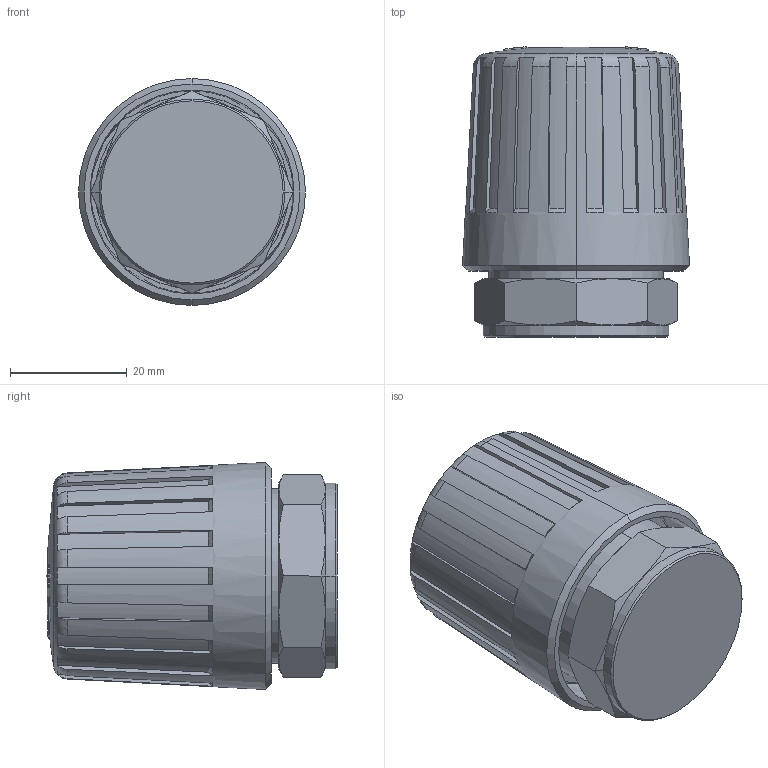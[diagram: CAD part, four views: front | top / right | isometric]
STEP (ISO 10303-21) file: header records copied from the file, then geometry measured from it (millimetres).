
FILE_DESCRIPTION (( 'STEP AP214' ), '1' );
FILE_NAME ('443006.STEP', '2021-07-07T12:25:12', ( '' ), ( '' ), 'SwSTEP 2.0', 'SolidWorks 2016', '' );
FILE_SCHEMA (( 'AUTOMOTIVE_DESIGN' ));
Length unit declared in the file: millimetre
Products named in the file (1): 443006
Bounding box: 38.9 x 49.76 x 38.9 mm (x, y, z)
Volume: 47170.3 mm3; surface area: 9930.9 mm2
Topology: 1 solids, 1 shells, 144 faces, 386 edges, 251 vertices
Faces by surface type: plane 73, cone 57, cylinder 6, bspline 3, sphere 3, torus 2
Entity records: 5275 total; most frequent: CARTESIAN_POINT 1852, ORIENTED_EDGE 772, DIRECTION 651, EDGE_CURVE 386, AXIS2_PLACEMENT_3D 299, VERTEX_POINT 251, B_SPLINE_CURVE_WITH_KNOTS 174, CIRCLE 157
